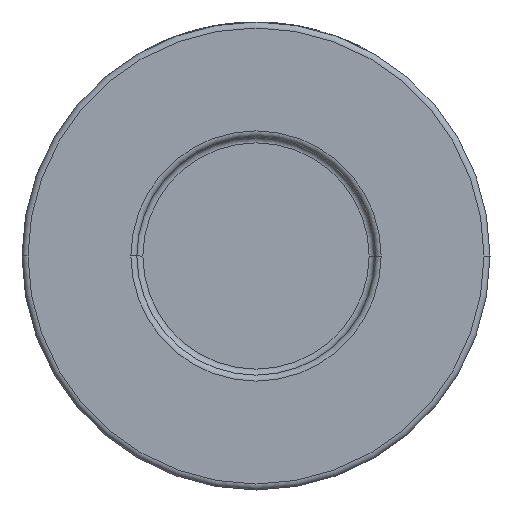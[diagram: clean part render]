
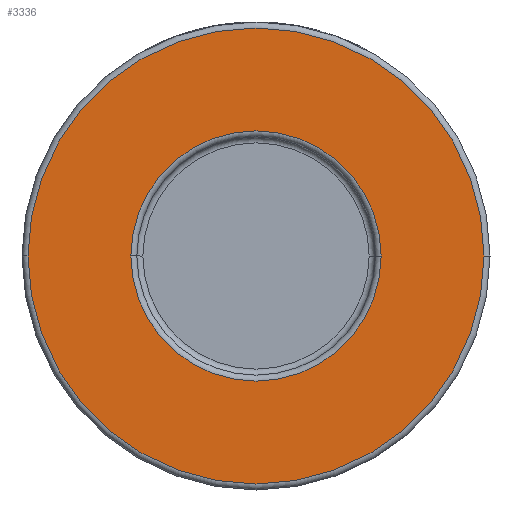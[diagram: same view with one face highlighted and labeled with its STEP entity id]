
A CAD part, front view. The second image highlights one B-rep face of the part: STEP entity #3336.
In plain terms, the highlighted planar face has unit normal (0, -1, 0).
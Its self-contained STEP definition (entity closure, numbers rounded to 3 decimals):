
#88 = AXIS2_PLACEMENT_3D ( 'NONE', #3794, #269, #247 ) ;
#240 = CARTESIAN_POINT ( 'NONE',  ( 20.85, -29., 0. ) ) ;
#247 = DIRECTION ( 'NONE',  ( 1., 0., 0. ) ) ;
#269 = DIRECTION ( 'NONE',  ( 0., 1., 0. ) ) ;
#399 = ORIENTED_EDGE ( 'NONE', *, *, #2495, .T. ) ;
#656 = DIRECTION ( 'NONE',  ( 0., -1., 0. ) ) ;
#690 = ORIENTED_EDGE ( 'NONE', *, *, #3973, .T. ) ;
#730 = VERTEX_POINT ( 'NONE', #991 ) ;
#766 = DIRECTION ( 'NONE',  ( 0., 1., 0. ) ) ;
#771 = CARTESIAN_POINT ( 'NONE',  ( 0., -29., 0. ) ) ;
#863 = PLANE ( 'NONE',  #1727 ) ;
#991 = CARTESIAN_POINT ( 'NONE',  ( -20.85, -29., 0. ) ) ;
#1129 = CIRCLE ( 'NONE', #88, 20.85 ) ;
#1188 = DIRECTION ( 'NONE',  ( 0., -1., 0. ) ) ;
#1211 = DIRECTION ( 'NONE',  ( 0., -1., 0. ) ) ;
#1493 = DIRECTION ( 'NONE',  ( 1., 0., 0. ) ) ;
#1727 = AXIS2_PLACEMENT_3D ( 'NONE', #2717, #1211, #2286 ) ;
#1845 = CARTESIAN_POINT ( 'NONE',  ( 0., -29., 0. ) ) ;
#2043 = EDGE_CURVE ( 'NONE', #3086, #2801, #2978, .T. ) ;
#2286 = DIRECTION ( 'NONE',  ( 1., 0., 0. ) ) ;
#2495 = EDGE_CURVE ( 'NONE', #2817, #730, #1129, .T. ) ;
#2515 = CIRCLE ( 'NONE', #4026, 20.85 ) ;
#2586 = AXIS2_PLACEMENT_3D ( 'NONE', #771, #1188, #1493 ) ;
#2596 = DIRECTION ( 'NONE',  ( 1., 0., 0. ) ) ;
#2717 = CARTESIAN_POINT ( 'NONE',  ( 39., -29., 0. ) ) ;
#2740 = CIRCLE ( 'NONE', #2586, 38. ) ;
#2801 = VERTEX_POINT ( 'NONE', #3839 ) ;
#2817 = VERTEX_POINT ( 'NONE', #240 ) ;
#2978 = CIRCLE ( 'NONE', #3884, 38. ) ;
#3012 = ORIENTED_EDGE ( 'NONE', *, *, #2043, .T. ) ;
#3086 = VERTEX_POINT ( 'NONE', #4433 ) ;
#3251 = ORIENTED_EDGE ( 'NONE', *, *, #4321, .T. ) ;
#3336 = ADVANCED_FACE ( 'NONE', ( #3757, #3836 ), #863, .T. ) ;
#3344 = EDGE_LOOP ( 'NONE', ( #690, #3012 ) ) ;
#3485 = CARTESIAN_POINT ( 'NONE',  ( 0., -29., 0. ) ) ;
#3757 = FACE_BOUND ( 'NONE', #4174, .T. ) ;
#3794 = CARTESIAN_POINT ( 'NONE',  ( 0., -29., 0. ) ) ;
#3836 = FACE_OUTER_BOUND ( 'NONE', #3344, .T. ) ;
#3838 = DIRECTION ( 'NONE',  ( 1., 0., 0. ) ) ;
#3839 = CARTESIAN_POINT ( 'NONE',  ( 38., -29., 0. ) ) ;
#3884 = AXIS2_PLACEMENT_3D ( 'NONE', #3485, #656, #3838 ) ;
#3973 = EDGE_CURVE ( 'NONE', #2801, #3086, #2740, .T. ) ;
#4026 = AXIS2_PLACEMENT_3D ( 'NONE', #1845, #766, #2596 ) ;
#4174 = EDGE_LOOP ( 'NONE', ( #399, #3251 ) ) ;
#4321 = EDGE_CURVE ( 'NONE', #730, #2817, #2515, .T. ) ;
#4433 = CARTESIAN_POINT ( 'NONE',  ( -38., -29., 0. ) ) ;
